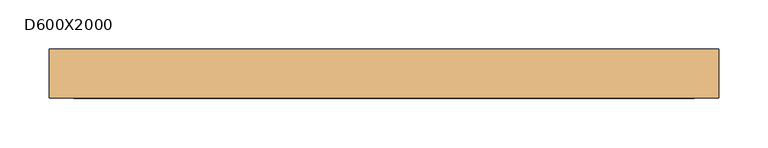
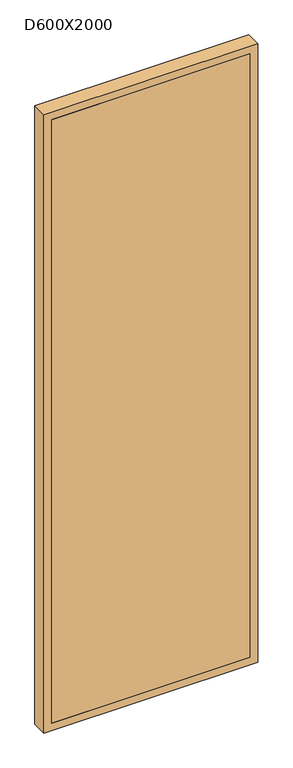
"""IFC4 building model written with IfcOpenShell, lengths in millimetres: door geometry, T1 点検口 : D600X2000."""

from ifc_helpers import new_model, si_unit, frame, origin, place, context, project, spatial, polyline, outline, extrude, faceted_brep, source, transform, mapped, element, save


def d600x2000_af21914f(model_context):
    return source(origin(), model_context, "Body", "SolidModel", [
        extrude(outline(polyline([(-315.0, 5.0), (315.0, 5.0), (315.0, -30.0), (-315.0, -30.0), (-315.0, 5.0)])), frame((0.0, 0.0, 85.0), z_axis=(0.0, 0.0, 1.0), x_axis=(1.0, 0.0, 0.0)), (0.0, 0.0, 1.0), 2030.0),
        faceted_brep([(315.0, 5.0, 85.0), (-315.0, 5.0, 85.0), (-315.0, -30.0, 85.0), (315.0, -30.0, 85.0), (300.0, 20.0, 100.0), (-300.0, 20.0, 100.0), (-300.0, 5.0, 100.0), (300.0, 5.0, 100.0), (340.0, -30.0, 60.0), (-340.0, -30.0, 60.0), (-340.0, 20.0, 60.0), (340.0, 20.0, 60.0), (-315.0, 5.0, 2115.0), (-315.0, -30.0, 2115.0), (-300.0, 20.0, 2100.0), (-300.0, 5.0, 2100.0), (-340.0, -30.0, 2140.0), (-340.0, 20.0, 2140.0), (315.0, 5.0, 2115.0), (315.0, -30.0, 2115.0), (300.0, 20.0, 2100.0), (300.0, 5.0, 2100.0), (340.0, -30.0, 2140.0), (340.0, 20.0, 2140.0)], [[[0, 1, 2, 3]], [[4, 5, 6, 7]], [[8, 9, 10, 11]], [[1, 12, 13, 2]], [[5, 14, 15, 6]], [[9, 16, 17, 10]], [[12, 18, 19, 13]], [[14, 20, 21, 15]], [[16, 22, 23, 17]], [[18, 0, 3, 19]], [[1, 0, 18, 12], [7, 6, 15, 21]], [[20, 4, 7, 21]], [[11, 10, 17, 23], [5, 4, 20, 14]], [[22, 8, 11, 23]], [[9, 8, 22, 16], [3, 2, 13, 19]]]),
    ])


if __name__ == "__main__":
    model = new_model("IFC4")
    model_context = context("Model", 3, world=origin())
    ifc_project = project(units=[si_unit("LENGTHUNIT", "METRE", prefix="MILLI")], contexts=[model_context])
    site = spatial("IfcSite", under=ifc_project)
    building = spatial("IfcBuilding", under=site)
    placement = place(None, origin())
    d600x2000_shape = d600x2000_af21914f(model_context)
    element("IfcDoor", 1, ObjectType="T1 点検口 : D600X2000", at=placement, inside=building, context=model_context, shape_type="MappedRepresentation", body=[
        mapped(d600x2000_shape, transform((0.0, 0.0, 0.0), x_axis=(1.0, 0.0, 0.0), y_axis=(0.0, 1.0, 0.0), z_axis=(0.0, 0.0, 1.0))),
    ])
    save(model, "model.ifc")
